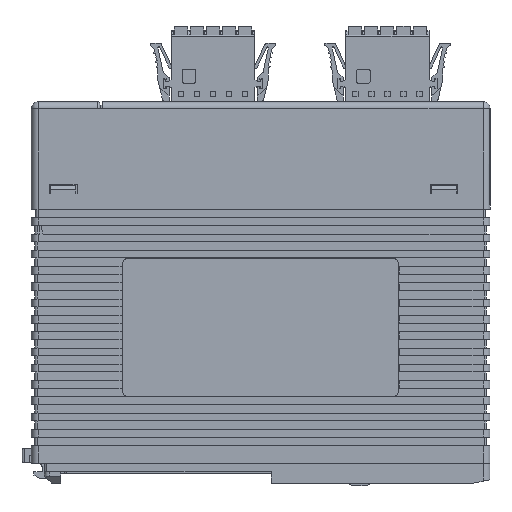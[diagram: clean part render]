
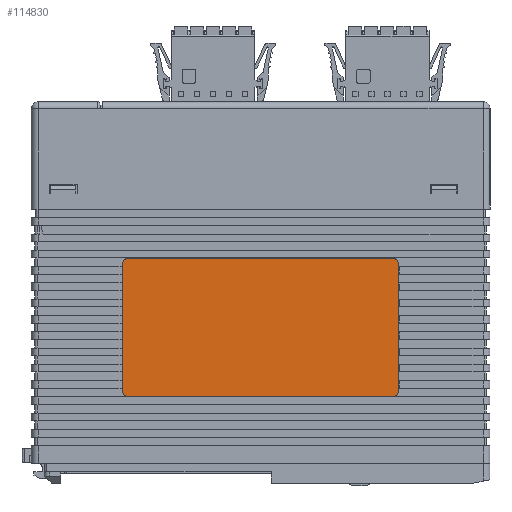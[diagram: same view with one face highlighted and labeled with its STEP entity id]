
A CAD part, left-side view. The second image highlights one B-rep face of the part: STEP entity #114830.
In plain terms, the highlighted planar face has unit normal (-1, 0, 0).
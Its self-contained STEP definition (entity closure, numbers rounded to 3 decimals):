
#7799 = CARTESIAN_POINT ( 'NONE',  ( -14.4, -29.974, -39.68 ) ) ;
#16740 = CARTESIAN_POINT ( 'NONE',  ( -14.4, 29.026, -39.68 ) ) ;
#23053 = EDGE_CURVE ( 'NONE', #271967, #205547, #120460, .T. ) ;
#27751 = AXIS2_PLACEMENT_3D ( 'NONE', #16740, #142908, #245010 ) ;
#29167 = CARTESIAN_POINT ( 'NONE',  ( -14.4, -28.974, -10.68 ) ) ;
#31646 = FACE_OUTER_BOUND ( 'NONE', #317991, .T. ) ;
#31959 = ORIENTED_EDGE ( 'NONE', *, *, #147912, .F. ) ;
#33083 = VECTOR ( 'NONE', #185875, 1000. ) ;
#39560 = DIRECTION ( 'NONE',  ( 0., 0., 1. ) ) ;
#53369 = AXIS2_PLACEMENT_3D ( 'NONE', #274722, #199932, #252592 ) ;
#61024 = ORIENTED_EDGE ( 'NONE', *, *, #137593, .F. ) ;
#67118 = EDGE_CURVE ( 'NONE', #293125, #169483, #201537, .T. ) ;
#87132 = VERTEX_POINT ( 'NONE', #183772 ) ;
#100467 = ORIENTED_EDGE ( 'NONE', *, *, #323583, .F. ) ;
#114830 = ADVANCED_FACE ( 'NONE', ( #31646 ), #317479, .T. ) ;
#115437 = VECTOR ( 'NONE', #275822, 1000. ) ;
#120460 = CIRCLE ( 'NONE', #332416, 1. ) ;
#121114 = LINE ( 'NONE', #328592, #275739 ) ;
#132831 = CARTESIAN_POINT ( 'NONE',  ( -14.4, 30.026, -11.68 ) ) ;
#136376 = CARTESIAN_POINT ( 'NONE',  ( -14.4, 29.026, -11.68 ) ) ;
#137593 = EDGE_CURVE ( 'NONE', #87132, #234141, #121114, .T. ) ;
#138334 = CARTESIAN_POINT ( 'NONE',  ( -14.4, -28.974, -39.68 ) ) ;
#140006 = DIRECTION ( 'NONE',  ( 1., 0., 0. ) ) ;
#140505 = CARTESIAN_POINT ( 'NONE',  ( -14.4, 29.026, -10.68 ) ) ;
#142908 = DIRECTION ( 'NONE',  ( 1., 0., 0. ) ) ;
#146408 = VERTEX_POINT ( 'NONE', #242824 ) ;
#147912 = EDGE_CURVE ( 'NONE', #234141, #146408, #272362, .T. ) ;
#150390 = CARTESIAN_POINT ( 'NONE',  ( -14.4, 30.026, -11.68 ) ) ;
#160156 = DIRECTION ( 'NONE',  ( 1., 0., 0. ) ) ;
#162707 = CARTESIAN_POINT ( 'NONE',  ( -14.4, 29.026, -11.68 ) ) ;
#168207 = EDGE_CURVE ( 'NONE', #205547, #202065, #315102, .T. ) ;
#169483 = VERTEX_POINT ( 'NONE', #176485 ) ;
#173285 = ORIENTED_EDGE ( 'NONE', *, *, #23053, .F. ) ;
#174468 = AXIS2_PLACEMENT_3D ( 'NONE', #162707, #268031, #266387 ) ;
#176485 = CARTESIAN_POINT ( 'NONE',  ( -14.4, 30.026, -39.68 ) ) ;
#177776 = ORIENTED_EDGE ( 'NONE', *, *, #168207, .F. ) ;
#182622 = ORIENTED_EDGE ( 'NONE', *, *, #196004, .F. ) ;
#183772 = CARTESIAN_POINT ( 'NONE',  ( -14.4, -29.974, -11.68 ) ) ;
#185875 = DIRECTION ( 'NONE',  ( 0., -1., 0. ) ) ;
#196004 = EDGE_CURVE ( 'NONE', #202065, #87132, #308845, .T. ) ;
#199351 = DIRECTION ( 'NONE',  ( 0., 0., -1. ) ) ;
#199932 = DIRECTION ( 'NONE',  ( 1., 0., 0. ) ) ;
#201537 = CIRCLE ( 'NONE', #27751, 1. ) ;
#202065 = VERTEX_POINT ( 'NONE', #278641 ) ;
#205547 = VERTEX_POINT ( 'NONE', #140505 ) ;
#207729 = DIRECTION ( 'NONE',  ( 0., 0., 1. ) ) ;
#212377 = VECTOR ( 'NONE', #207729, 1000. ) ;
#234141 = VERTEX_POINT ( 'NONE', #7799 ) ;
#242824 = CARTESIAN_POINT ( 'NONE',  ( -14.4, -28.974, -40.68 ) ) ;
#245010 = DIRECTION ( 'NONE',  ( 0., 0., 1. ) ) ;
#252592 = DIRECTION ( 'NONE',  ( 0., 0., 1. ) ) ;
#263880 = DIRECTION ( 'NONE',  ( 0., 0., 1. ) ) ;
#266387 = DIRECTION ( 'NONE',  ( 0., 0., 1. ) ) ;
#268031 = DIRECTION ( 'NONE',  ( -1., 0., 0. ) ) ;
#269715 = ORIENTED_EDGE ( 'NONE', *, *, #67118, .F. ) ;
#271191 = CARTESIAN_POINT ( 'NONE',  ( -14.4, 29.026, -40.68 ) ) ;
#271967 = VERTEX_POINT ( 'NONE', #150390 ) ;
#272362 = CIRCLE ( 'NONE', #305168, 1. ) ;
#272469 = CARTESIAN_POINT ( 'NONE',  ( -14.4, 29.026, -40.68 ) ) ;
#274722 = CARTESIAN_POINT ( 'NONE',  ( -14.4, -28.974, -11.68 ) ) ;
#275739 = VECTOR ( 'NONE', #199351, 1000. ) ;
#275822 = DIRECTION ( 'NONE',  ( 0., 1., 0. ) ) ;
#278641 = CARTESIAN_POINT ( 'NONE',  ( -14.4, -28.974, -10.68 ) ) ;
#285895 = LINE ( 'NONE', #132831, #212377 ) ;
#288310 = ORIENTED_EDGE ( 'NONE', *, *, #325696, .F. ) ;
#293125 = VERTEX_POINT ( 'NONE', #271191 ) ;
#305168 = AXIS2_PLACEMENT_3D ( 'NONE', #138334, #140006, #39560 ) ;
#308845 = CIRCLE ( 'NONE', #53369, 1. ) ;
#315102 = LINE ( 'NONE', #29167, #33083 ) ;
#317479 = PLANE ( 'NONE',  #174468 ) ;
#317991 = EDGE_LOOP ( 'NONE', ( #173285, #100467, #269715, #288310, #31959, #61024, #182622, #177776 ) ) ;
#323583 = EDGE_CURVE ( 'NONE', #169483, #271967, #285895, .T. ) ;
#325294 = LINE ( 'NONE', #272469, #115437 ) ;
#325696 = EDGE_CURVE ( 'NONE', #146408, #293125, #325294, .T. ) ;
#328592 = CARTESIAN_POINT ( 'NONE',  ( -14.4, -29.974, -39.68 ) ) ;
#332416 = AXIS2_PLACEMENT_3D ( 'NONE', #136376, #160156, #263880 ) ;
